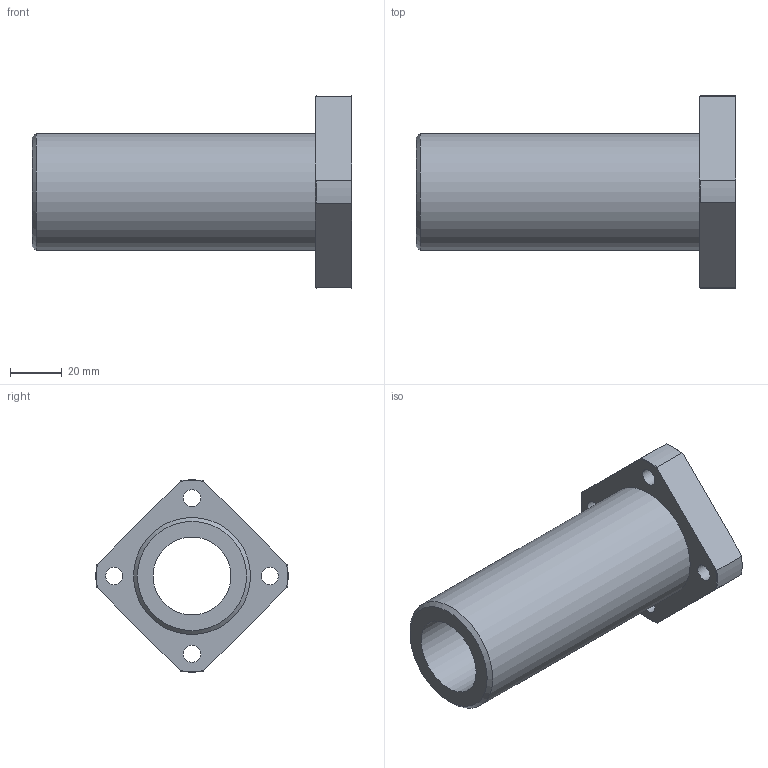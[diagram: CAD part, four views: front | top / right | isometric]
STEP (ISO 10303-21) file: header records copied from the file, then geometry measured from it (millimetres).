
FILE_DESCRIPTION(('STEP AP203'),'1');
FILE_NAME('//192.168.1.1/share/s-4 技術開発/s-4-4_CAD/s-4-4-3_見直し済み/PBC LINEAR修正済み/DFPJ/DFPJ_TOP/DFPJ/DFPJ30.step','2022-03-24T05:04:02',(' '),(' '),'Spatial InterOp 3D',' ',' ');
FILE_SCHEMA(('CONFIG_CONTROL_DESIGN'));
Length unit declared in the file: millimetre
Products named in the file (1): 1
Bounding box: 123 x 73.95 x 73.95 mm (x, y, z)
Volume: 129014.7 mm3; surface area: 36320.7 mm2
Topology: 1 solids, 1 shells, 34 faces, 85 edges, 58 vertices
Faces by surface type: cylinder 14, plane 11, cone 9
Full cylindrical faces by diameter (mm): 6.6 x4, 11 x4, 30 x1, 45 x1
Entity records: 1018 total; most frequent: CARTESIAN_POINT 205, DIRECTION 160, ORIENTED_EDGE 138, AXIS2_PLACEMENT_3D 72, EDGE_CURVE 69, EDGE_LOOP 60, VERTEX_POINT 53, FACE_OUTER_BOUND 44
